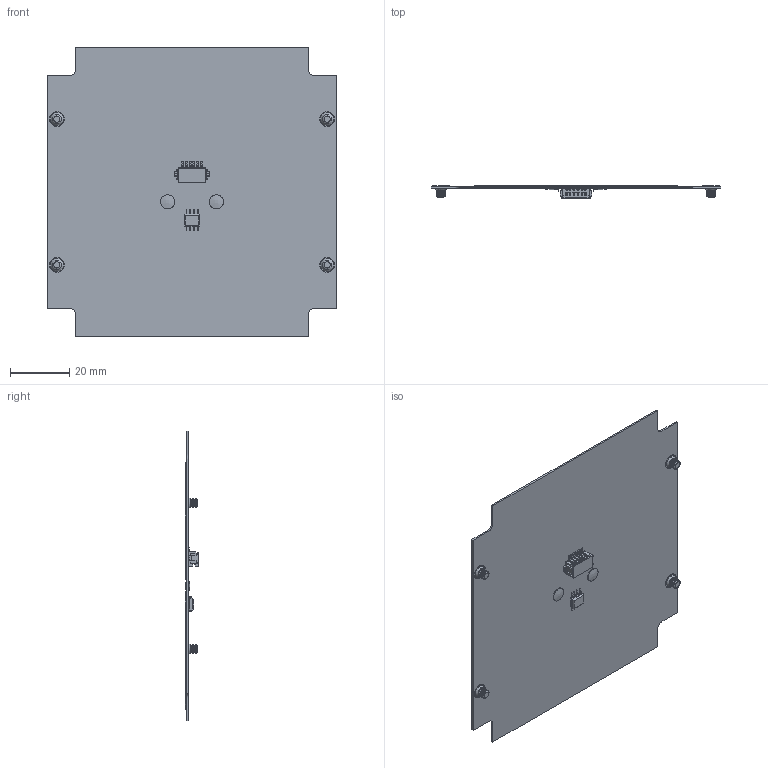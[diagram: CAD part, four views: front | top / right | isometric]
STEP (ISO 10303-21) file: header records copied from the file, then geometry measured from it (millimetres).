
FILE_DESCRIPTION (( 'STEP AP214' ), '1' );
FILE_NAME ('710-00837-B ANTS End Solar Panel.STEP', '2019-04-03T17:45:10', ( '' ), ( '' ), 'SwSTEP 2.0', 'SolidWorks 2014', '' );
FILE_SCHEMA (( 'AUTOMOTIVE_DESIGN' ));
Length unit declared in the file: inch
Products named in the file (2): 710-00837-B ANTS End Solar Panel
Bounding box: 97.99 x 4.61 x 97.99 mm (x, y, z)
Volume: 6961.1 mm3; surface area: 30209.9 mm2
Topology: 2 solids, 2 shells, 802 faces, 2014 edges, 1246 vertices
Faces by surface type: plane 580, cylinder 120, cone 92, torus 8, bspline 2
Entity records: 25751 total; most frequent: CARTESIAN_POINT 4470, ORIENTED_EDGE 4028, DIRECTION 3972, EDGE_CURVE 2014, VECTOR 1652, LINE 1652, VERTEX_POINT 1246, AXIS2_PLACEMENT_3D 1160
